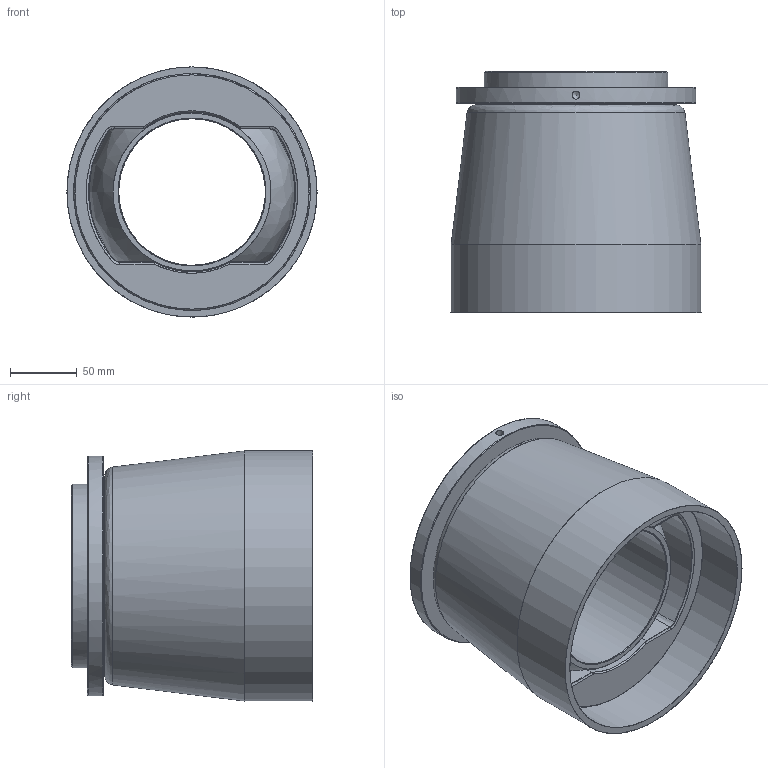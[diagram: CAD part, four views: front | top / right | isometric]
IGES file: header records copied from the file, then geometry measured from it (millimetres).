
Start section: Missler Software 3 rue Hermes, EUROPARC, 31520 Ramonville-Saint-Agne, France Tel   : +33 (0)5 61 00 03 00 Fax   : +33 (0)5 61 00 03 03 Email : sup.solid@topsolid.com
Global section: file name: Z:\J\Jp3\Palier\Palier-type1\3D TopSolid 2011\Serie 10.xx.xx\10.14.xx\10.14.11.igs; native system: TopSolid v611200 Missler Software; preprocessor: IGES preprocessor v100000; author: TAPIN; date: 120223.143349; units: millimetre
Bounding box: 187.8 x 181.04 x 187.8 mm (x, y, z)
Surface area: 456787.8 mm2 (no closed solid volume)
Topology: 0 solids, 0 shells, 75 faces, 1083 edges, 1060 vertices
Faces by surface type: bspline 75
